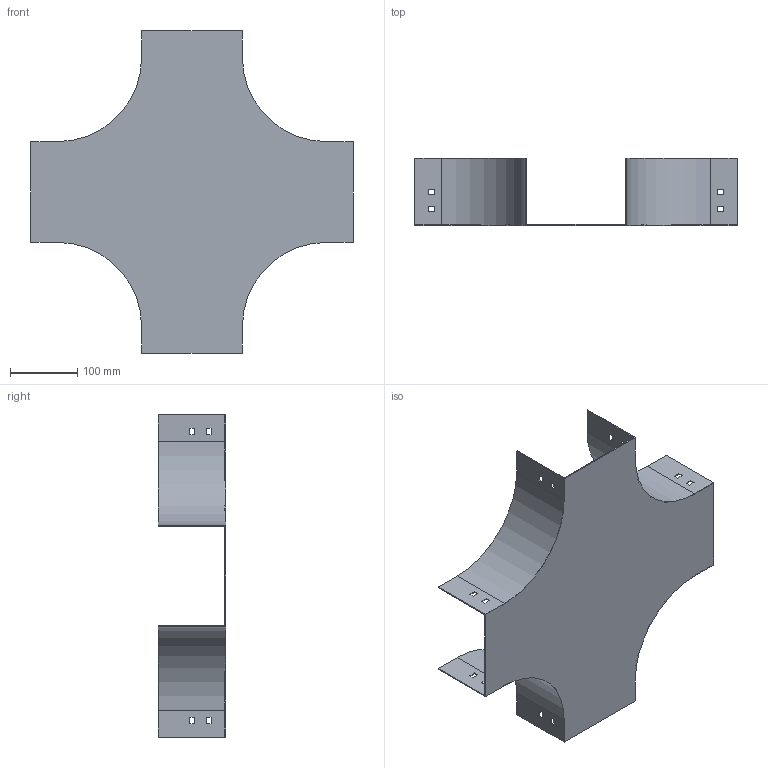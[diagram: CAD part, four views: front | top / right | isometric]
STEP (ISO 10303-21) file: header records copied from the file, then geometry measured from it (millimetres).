
FILE_DESCRIPTION (( 'STEP AP214' ), '1' );
FILE_NAME ('PC_151.step', '2025-07-16T09:21:53', ( '' ), ( '' ), 'SwSTEP 2.0', 'SolidWorks 2023', '' );
FILE_SCHEMA (( 'AUTOMOTIVE_DESIGN' ));
Length unit declared in the file: millimetre
Products named in the file (1): PC_151
Bounding box: 480 x 100 x 480 mm (x, y, z)
Volume: 364707.8 mm3; surface area: 490833.1 mm2
Topology: 1 solids, 1 shells, 98 faces, 288 edges, 192 vertices
Faces by surface type: plane 90, cylinder 8
Entity records: 3295 total; most frequent: CARTESIAN_POINT 579, ORIENTED_EDGE 576, DIRECTION 502, EDGE_CURVE 288, LINE 272, VECTOR 272, VERTEX_POINT 192, EDGE_LOOP 130
